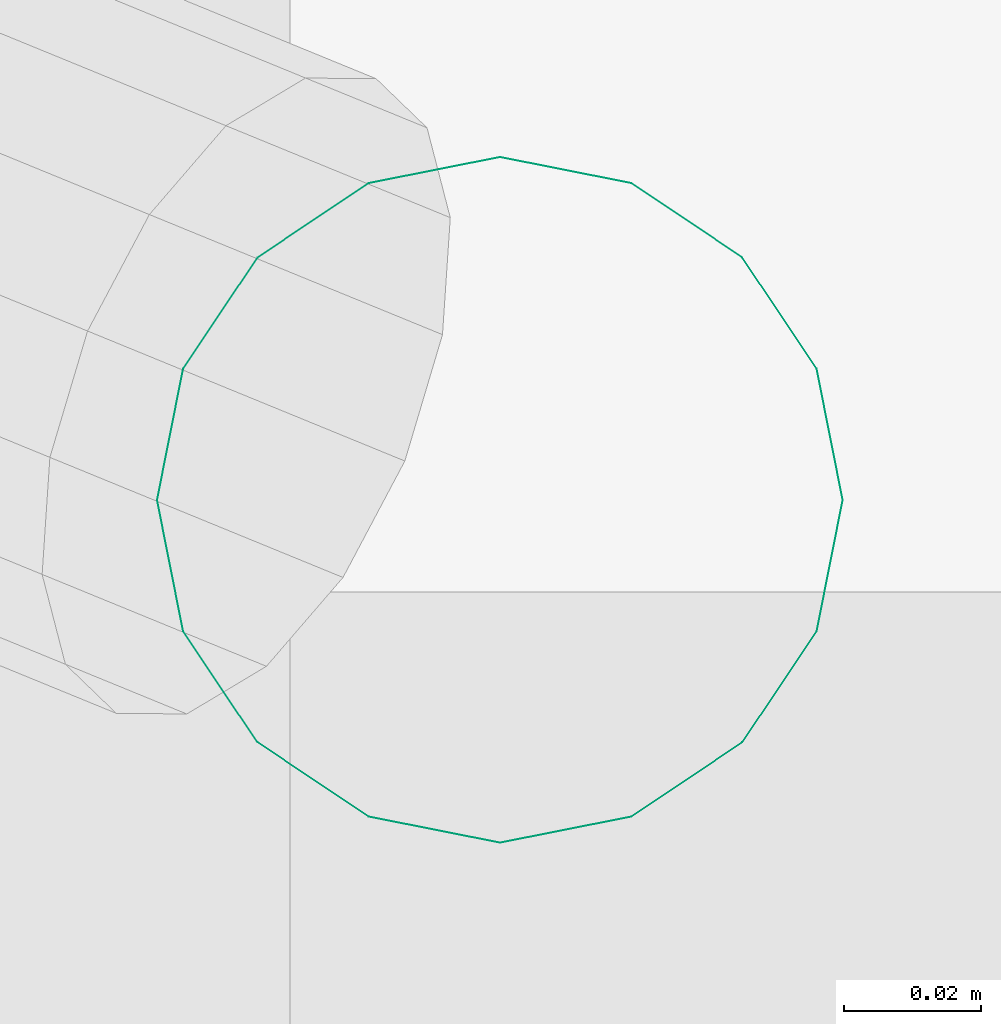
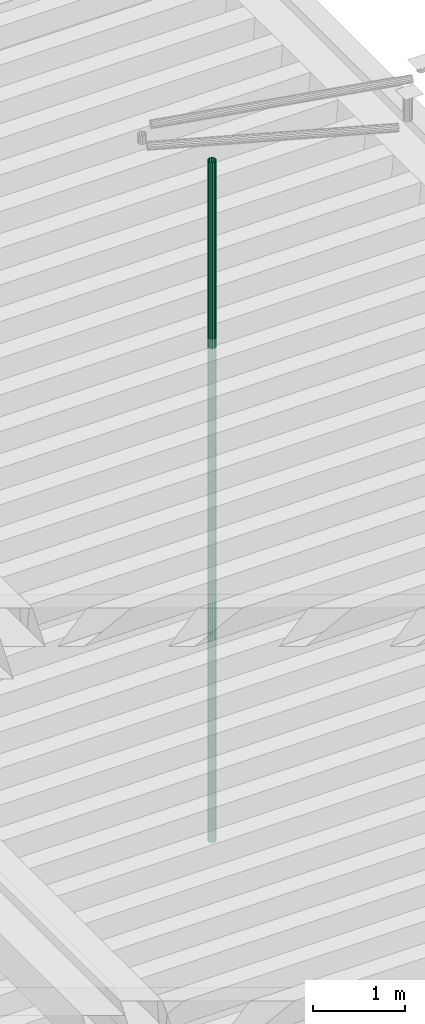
# One storey, part 61 of 106: 1 flow segment.
"""IFC2X3 building model written with IfcOpenShell, lengths in metres."""

from ifc_helpers import new_model, entity, si_unit, converted_unit, derived_unit, money_unit, direction, frame, origin_with_axes, place, context, subcontext, project, spatial, faceted_brep, material, type_object, element, save


model = new_model("IFC2X3")

# Units and contexts
model_context = context("Model", 3, precision=1e-05, world=origin_with_axes(), true_north=direction((0.0, 1.0)))
body_context = subcontext(model_context, "Body", "Model", "MODEL_VIEW", scale=1.0)
ifc_project = project(units=[si_unit("LENGTHUNIT", "METRE"), si_unit("AREAUNIT", "SQUARE_METRE"), si_unit("VOLUMEUNIT", "CUBIC_METRE"), si_unit("ABSORBEDDOSEUNIT", "GRAY"), si_unit("AMOUNTOFSUBSTANCEUNIT", "MOLE"), si_unit("DOSEEQUIVALENTUNIT", "SIEVERT"), si_unit("ELECTRICCAPACITANCEUNIT", "FARAD"), si_unit("ELECTRICCHARGEUNIT", "COULOMB"), si_unit("ELECTRICCONDUCTANCEUNIT", "SIEMENS"), si_unit("ELECTRICCURRENTUNIT", "AMPERE"), si_unit("ELECTRICRESISTANCEUNIT", "OHM"), si_unit("ELECTRICVOLTAGEUNIT", "VOLT"), si_unit("ENERGYUNIT", "JOULE"), si_unit("FORCEUNIT", "NEWTON"), si_unit("FREQUENCYUNIT", "HERTZ"), si_unit("ILLUMINANCEUNIT", "LUX"), si_unit("INDUCTANCEUNIT", "HENRY"), si_unit("LUMINOUSFLUXUNIT", "LUMEN"), si_unit("LUMINOUSINTENSITYUNIT", "CANDELA"), si_unit("MAGNETICFLUXDENSITYUNIT", "TESLA"), si_unit("MAGNETICFLUXUNIT", "WEBER"), si_unit("MASSUNIT", "GRAM"), converted_unit("PLANEANGLEUNIT", "degree", entity("IfcReal", 0.0174532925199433), si_unit("PLANEANGLEUNIT", "RADIAN"), dimensions=[0, 0, 0, 0, 0, 0, 0]), si_unit("POWERUNIT", "WATT"), si_unit("PRESSUREUNIT", "PASCAL"), si_unit("RADIOACTIVITYUNIT", "BECQUEREL"), si_unit("SOLIDANGLEUNIT", "STERADIAN"), si_unit("THERMODYNAMICTEMPERATUREUNIT", "KELVIN"), si_unit("TIMEUNIT", "SECOND"), derived_unit("ACCELERATIONUNIT", [(si_unit("LENGTHUNIT", "METRE"), 1), (si_unit("TIMEUNIT", "SECOND"), -2)]), derived_unit("ANGULARVELOCITYUNIT", [(converted_unit("PLANEANGLEUNIT", "degree", entity("IfcReal", 0.0174532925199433), si_unit("PLANEANGLEUNIT", "RADIAN"), dimensions=[0, 0, 0, 0, 0, 0, 0]), 1), (si_unit("TIMEUNIT", "SECOND"), -1)]), derived_unit("CURVATUREUNIT", [(converted_unit("PLANEANGLEUNIT", "degree", entity("IfcReal", 0.0174532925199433), si_unit("PLANEANGLEUNIT", "RADIAN"), dimensions=[0, 0, 0, 0, 0, 0, 0]), 1), (si_unit("LENGTHUNIT", "METRE"), -1)]), derived_unit("DYNAMICVISCOSITYUNIT", [(si_unit("PRESSUREUNIT", "PASCAL"), 1), (si_unit("TIMEUNIT", "SECOND"), 1)]), derived_unit("HEATFLUXDENSITYUNIT", [(si_unit("POWERUNIT", "WATT"), 1), (si_unit("LENGTHUNIT", "METRE"), -2)]), derived_unit("HEATINGVALUEUNIT", [(si_unit("ENERGYUNIT", "JOULE"), 1), (si_unit("MASSUNIT", "GRAM"), -1)]), derived_unit("INTEGERCOUNTRATEUNIT", [(si_unit("TIMEUNIT", "SECOND"), -1)]), derived_unit("IONCONCENTRATIONUNIT", [(si_unit("MASSUNIT", "GRAM"), 1), (si_unit("VOLUMEUNIT", "CUBIC_METRE"), -1)]), derived_unit("ISOTHERMALMOISTURECAPACITYUNIT", [(si_unit("VOLUMEUNIT", "CUBIC_METRE"), 1), (si_unit("MASSUNIT", "GRAM"), -1)]), derived_unit("KINEMATICVISCOSITYUNIT", [(si_unit("AREAUNIT", "SQUARE_METRE"), 1), (si_unit("TIMEUNIT", "SECOND"), -1)]), derived_unit("LINEARFORCEUNIT", [(si_unit("FORCEUNIT", "NEWTON"), 1), (si_unit("LENGTHUNIT", "METRE"), -1)]), derived_unit("LINEARMOMENTUNIT", [(si_unit("FORCEUNIT", "NEWTON"), 1), (si_unit("LENGTHUNIT", "METRE"), -1)]), derived_unit("LINEARSTIFFNESSUNIT", [(si_unit("FORCEUNIT", "NEWTON"), 1), (si_unit("LENGTHUNIT", "METRE"), -1)]), derived_unit("LINEARVELOCITYUNIT", [(si_unit("LENGTHUNIT", "METRE"), 1), (si_unit("TIMEUNIT", "SECOND"), -1)]), derived_unit("LUMINOUSINTENSITYDISTRIBUTIONUNIT", [(si_unit("LUMINOUSINTENSITYUNIT", "CANDELA"), 1), (si_unit("LUMINOUSFLUXUNIT", "LUMEN"), -1)]), derived_unit("MASSDENSITYUNIT", [(si_unit("MASSUNIT", "GRAM"), 1), (si_unit("VOLUMEUNIT", "CUBIC_METRE"), -1)]), derived_unit("MASSFLOWRATEUNIT", [(si_unit("MASSUNIT", "GRAM"), 1), (si_unit("TIMEUNIT", "SECOND"), -1)]), derived_unit("MASSPERLENGTHUNIT", [(si_unit("MASSUNIT", "GRAM"), 1), (si_unit("LENGTHUNIT", "METRE"), -1)]), derived_unit("MODULUSOFELASTICITYUNIT", [(si_unit("FORCEUNIT", "NEWTON"), 1), (si_unit("AREAUNIT", "SQUARE_METRE"), -1)]), derived_unit("MODULUSOFLINEARSUBGRADEREACTIONUNIT", [(si_unit("FORCEUNIT", "NEWTON"), 1), (si_unit("LENGTHUNIT", "METRE"), -2)]), derived_unit("MODULUSOFROTATIONALSUBGRADEREACTIONUNIT", [(si_unit("FORCEUNIT", "NEWTON"), 1), (si_unit("LENGTHUNIT", "METRE"), 1)]), derived_unit("MODULUSOFSUBGRADEREACTIONUNIT", [(si_unit("FORCEUNIT", "NEWTON"), 1), (si_unit("VOLUMEUNIT", "CUBIC_METRE"), -1)]), derived_unit("MOISTUREDIFFUSIVITYUNIT", [(si_unit("VOLUMEUNIT", "CUBIC_METRE"), 1), (si_unit("TIMEUNIT", "SECOND"), -1)]), derived_unit("MOLECULARWEIGHTUNIT", [(si_unit("MASSUNIT", "GRAM"), 1), (si_unit("AMOUNTOFSUBSTANCEUNIT", "MOLE"), -1)]), derived_unit("PLANARFORCEUNIT", [(si_unit("FORCEUNIT", "NEWTON"), 1), (si_unit("LENGTHUNIT", "METRE"), -2)]), derived_unit("ROTATIONALFREQUENCYUNIT", [(si_unit("TIMEUNIT", "SECOND"), -1)]), derived_unit("ROTATIONALMASSUNIT", [(si_unit("MASSUNIT", "GRAM"), 1), (si_unit("LENGTHUNIT", "METRE"), 2)]), derived_unit("ROTATIONALSTIFFNESSUNIT", [(si_unit("FORCEUNIT", "NEWTON"), 1), (si_unit("LENGTHUNIT", "METRE"), 1), (converted_unit("PLANEANGLEUNIT", "degree", entity("IfcReal", 0.0174532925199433), si_unit("PLANEANGLEUNIT", "RADIAN"), dimensions=[0, 0, 0, 0, 0, 0, 0]), -1)]), derived_unit("SECTIONAREAINTEGRALUNIT", [(si_unit("LENGTHUNIT", "METRE"), 5)]), derived_unit("SECTIONMODULUSUNIT", [(si_unit("LENGTHUNIT", "METRE"), 3)]), derived_unit("SHEARMODULUSUNIT", [(si_unit("FORCEUNIT", "NEWTON"), 1), (si_unit("AREAUNIT", "SQUARE_METRE"), -1)]), derived_unit("SOUNDPOWERUNIT", [(si_unit("ENERGYUNIT", "JOULE"), 1), (si_unit("TIMEUNIT", "SECOND"), -1)]), derived_unit("SPECIFICHEATCAPACITYUNIT", [(si_unit("FORCEUNIT", "NEWTON"), 1), (si_unit("MASSUNIT", "GRAM"), -1), (si_unit("THERMODYNAMICTEMPERATUREUNIT", "KELVIN"), -1)]), derived_unit("TEMPERATUREGRADIENTUNIT", [(si_unit("THERMODYNAMICTEMPERATUREUNIT", "KELVIN"), 1), (si_unit("LENGTHUNIT", "METRE"), -1)]), derived_unit("THERMALADMITTANCEUNIT", [(si_unit("POWERUNIT", "WATT"), 1), (si_unit("AREAUNIT", "SQUARE_METRE"), -1), (si_unit("THERMODYNAMICTEMPERATUREUNIT", "KELVIN"), -1)]), derived_unit("THERMALCONDUCTANCEUNIT", [(si_unit("POWERUNIT", "WATT"), 1), (si_unit("LENGTHUNIT", "METRE"), -1), (si_unit("THERMODYNAMICTEMPERATUREUNIT", "KELVIN"), -1)]), derived_unit("THERMALEXPANSIONCOEFFICIENTUNIT", [(si_unit("THERMODYNAMICTEMPERATUREUNIT", "KELVIN"), -1)]), derived_unit("THERMALRESISTANCEUNIT", [(si_unit("AREAUNIT", "SQUARE_METRE"), 1), (si_unit("POWERUNIT", "WATT"), -1)]), derived_unit("THERMALTRANSMITTANCEUNIT", [(si_unit("POWERUNIT", "WATT"), 1), (si_unit("AREAUNIT", "SQUARE_METRE"), -1), (si_unit("THERMODYNAMICTEMPERATUREUNIT", "KELVIN"), -1)]), derived_unit("TORQUEUNIT", [(si_unit("FORCEUNIT", "NEWTON"), 1), (si_unit("LENGTHUNIT", "METRE"), 1)]), derived_unit("VAPORPERMEABILITYUNIT", [(si_unit("MASSUNIT", "GRAM"), 1), (si_unit("TIMEUNIT", "SECOND"), -1)]), derived_unit("VOLUMETRICFLOWRATEUNIT", [(si_unit("VOLUMEUNIT", "CUBIC_METRE"), 1), (si_unit("TIMEUNIT", "SECOND"), -1)]), derived_unit("WARPINGCONSTANTUNIT", [(si_unit("LENGTHUNIT", "METRE"), 6)]), derived_unit("WARPINGMOMENTUNIT", [(si_unit("FORCEUNIT", "NEWTON"), 1), (si_unit("LENGTHUNIT", "METRE"), 2)]), money_unit("GBP")], contexts=[model_context])

# Site, building, storey
site_placement = place(None, origin_with_axes())
site = spatial("IfcSite", under=ifc_project, at=site_placement, Name="Site", CompositionType="ELEMENT")
building_placement = place(site_placement, origin_with_axes())
building = spatial("IfcBuilding", under=site, at=building_placement, Name="Building01", CompositionType="ELEMENT")
storey_placement = place(building_placement, origin_with_axes())
storey = spatial("IfcBuildingStorey", under=building, at=storey_placement, Name="GF", CompositionType="ELEMENT", Elevation=0.0)

# Flow segment
ifc_material = material(Name="M_BSUK_ColdWater")
pipe_segment_type = type_object("IfcPipeSegmentType", Name="M-BmpStraightpipe-DefaultPipe", PredefinedType="RIGIDSEGMENT")
flow_segment_placement = place(storey_placement, frame((22.646648, 7.883388, 5.417218), z_axis=(1.0, 0.0, 0.0), x_axis=(0.0, 0.0, 1.0)))
element("IfcFlowSegment", 1, at=flow_segment_placement, inside=storey, type_object=pipe_segment_type, material=ifc_material, Name="M-BmpStraightpipe-DefaultPipe", ObjectType="M-BmpStraightpipe-DefaultPipe", context=body_context, shape_type="Brep", body=[
    faceted_brep([(9.008093, 0.0, -0.05), (0.0, 0.0, -0.05), (0.0, 0.019134, -0.046194), (9.008093, 0.019134, -0.046194), (0.0, 0.035355, -0.035355), (9.008093, 0.035355, -0.035355), (0.0, 0.046194, -0.019134), (9.008093, 0.046194, -0.019134), (0.0, 0.05, 0.0), (9.008093, 0.05, 0.0), (0.0, 0.046194, 0.019134), (9.008093, 0.046194, 0.019134), (0.0, 0.035355, 0.035355), (9.008093, 0.035355, 0.035355), (0.0, 0.019134, 0.046194), (9.008093, 0.019134, 0.046194), (0.0, 0.0, 0.05), (9.008093, 0.0, 0.05), (0.0, -0.019134, 0.046194), (9.008093, -0.019134, 0.046194), (0.0, -0.035355, 0.035355), (9.008093, -0.035355, 0.035355), (0.0, -0.046194, 0.019134), (9.008093, -0.046194, 0.019134), (0.0, -0.05, 0.0), (9.008093, -0.05, 0.0), (0.0, -0.046194, -0.019134), (9.008093, -0.046194, -0.019134), (0.0, -0.035355, -0.035355), (9.008093, -0.035355, -0.035355), (0.0, -0.019134, -0.046194), (9.008093, -0.019134, -0.046194)], [[[0, 1, 2, 3]], [[3, 2, 4, 5]], [[5, 4, 6, 7]], [[7, 6, 8, 9]], [[9, 8, 10, 11]], [[11, 10, 12, 13]], [[13, 12, 14, 15]], [[15, 14, 16, 17]], [[17, 16, 18, 19]], [[19, 18, 20, 21]], [[21, 20, 22, 23]], [[23, 22, 24, 25]], [[25, 24, 26, 27]], [[27, 26, 28, 29]], [[29, 28, 30, 31]], [[31, 30, 1, 0]]]),
])

save(model, "model.ifc")
